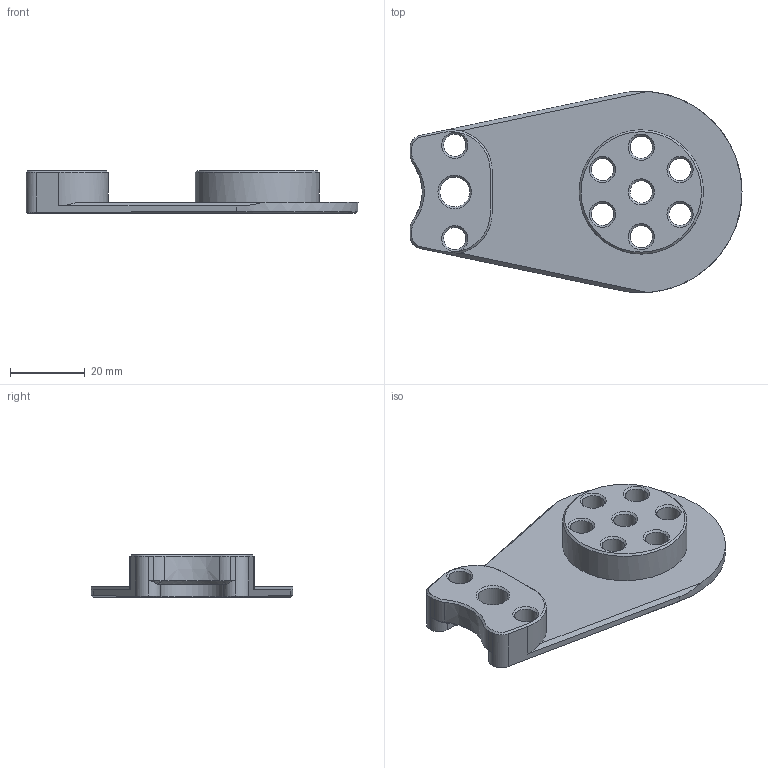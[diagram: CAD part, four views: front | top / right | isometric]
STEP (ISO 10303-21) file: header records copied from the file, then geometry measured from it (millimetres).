
FILE_DESCRIPTION(/* description */ (''),/* implementation_level */ '2;1');
FILE_NAME(/* name */ 'Body.step',/* time_stamp */ '2026-02-25T21:59:35-08:00',/* author */ (''),/* organization */ (''),/* preprocessor_version */ 'ST-DEVELOPER v20.1',/* originating_system */ 'Autodesk Translation Framework v14.24.0.0',/* authorisation */ '');
FILE_SCHEMA (('AUTOMOTIVE_DESIGN { 1 0 10303 214 3 1 1 }'));
Length unit declared in the file: millimetre
Products named in the file (1): FusionComponent
Bounding box: 89 x 53.98 x 11.5 mm (x, y, z)
Volume: 18629.7 mm3; surface area: 11247.4 mm2
Topology: 1 solids, 1 shells, 79 faces, 222 edges, 145 vertices
Faces by surface type: plane 32, cone 22, cylinder 21, bspline 4
Full cylindrical faces by diameter (mm): 6 x9, 8 x1, 33.298 x1
Entity records: 5341 total; most frequent: CARTESIAN_POINT 3366, ORIENTED_EDGE 442, DIRECTION 334, EDGE_CURVE 221, VERTEX_POINT 145, AXIS2_PLACEMENT_3D 117, EDGE_LOOP 100, LINE 100
